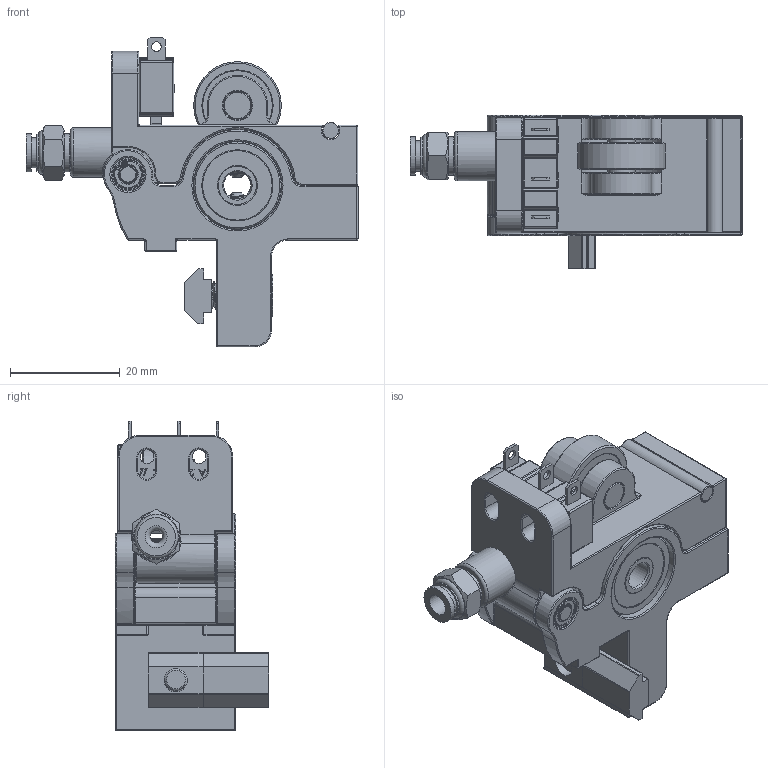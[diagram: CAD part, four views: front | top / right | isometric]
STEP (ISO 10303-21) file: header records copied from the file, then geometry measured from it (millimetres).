
FILE_DESCRIPTION(/* description */ (''),/* implementation_level */ '2;1');
FILE_NAME(/* name */ 'CAMMU-Gate-PC4-M6 v5.step',/* time_stamp */ '2025-10-09T09:31:36-05:00',/* author */ (''),/* organization */ (''),/* preprocessor_version */ 'ST-DEVELOPER v20.1',/* originating_system */ 'Autodesk Translation Framework v14.17.0.0',/* authorisation */ '');
FILE_SCHEMA (('AUTOMOTIVE_DESIGN { 1 0 10303 214 3 1 1 }'));
Products named in the file (14): CAMMU-Linear-Rail-Lead-Screw; Endstop Limit Switch v1; Brass NUT; Brass body; Screw; 625Z_1; MR63ZZ; outer shell - mz63zz; inner shell - mz63zz; 1mm ball bearing sphere; MR63ZZ - seal; Bolt M5 10mm v1; Slider T-Nut for 2020 - M5; PC4-M6
Assembly tree (28 placements, depth 3):
  CAMMU-Linear-Rail-Lead-Screw
    Endstop Limit Switch v1
    625Z_1  x2
    Brass NUT
      Screw  x2
      Brass body
    MR63ZZ  x2
      outer shell - mz63zz
      inner shell - mz63zz
      1mm ball bearing sphere
      MR63ZZ - seal
    Bolt M5 10mm v1
    Slider T-Nut for 2020 - M5
    PC4-M6
Bounding box: 60.61 x 28.04 x 56.56 mm (x, y, z)
Volume: 26979 mm3; surface area: 19926 mm2
Topology: 56 solids, 56 shells, 1765 faces, 4453 edges, 2824 vertices
Faces by surface type: plane 656, cylinder 539, bspline 311, torus 137, cone 71, sphere 51
Full cylindrical faces by diameter (mm): 0.8 x2, 1.75 x3, 2.3 x1, 2.35 x10, 2.5 x2, 2.529 x2, 3 x13, 3.086 x4, 3.25 x1, 3.4 x8, 3.7 x4, 3.8 x4, 4 x2, 4.2 x1, 4.234 x1, 4.3 x1, 4.4 x1, 5 x15, 5.035 x3, 5.1 x4, 5.3 x3, 5.4 x4, 5.5 x1, 5.6 x8, 6 x8, 6.147 x1, 6.2 x2, 6.8 x1, 7 x6, 8.5 x1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
Entity records: 70277 total; most frequent: CARTESIAN_POINT 38824, ORIENTED_EDGE 6792, DIRECTION 6047, EDGE_CURVE 3396, AXIS2_PLACEMENT_3D 2286, VERTEX_POINT 2141, LINE 1475, VECTOR 1475
